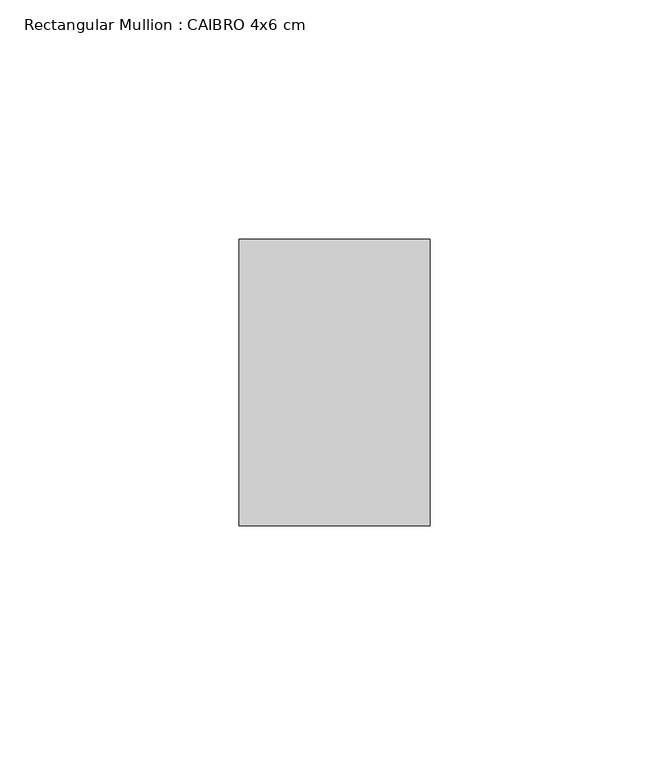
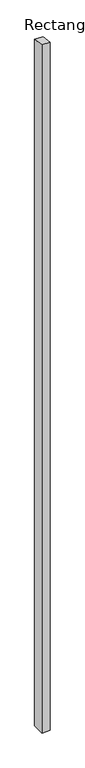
"""IFC4 building model written with IfcOpenShell, lengths in millimetres: member geometry, Rectangular Mullion : CAIBRO 4x6 cm."""

import ifcopenshell
import ifcopenshell.guid

model = None  # the IFC model being written
_history = None  # IfcOwnerHistory: only IFC2X3 demands one
_inside = {}  # id of a spatial element -> (the spatial element, [elements in it])
_under = {}  # id of a project, library or spatial element -> (it, [spatial elements below it])
_declared = {}  # id of a project -> (the project, [libraries it declares])
_typed = {}  # id of a type object -> (the type object, [elements of that type])
_made_of = {}  # id of a material, layer set ... -> (it, [elements and type objects made of it])


def new_model(schema):
    """Start an empty IFC model of exactly this schema.

    Asked for "IFC4X3", IfcOpenShell would pick the latest addendum, in which some entities
    have other attributes; the version numbers below select the first issue.
    IFC2X3 requires an IfcOwnerHistory on every rooted entity: one is made here for all.
    """
    global model, _history
    if schema == "IFC4X3":
        model = ifcopenshell.file(schema_version=(4, 3, 0, 0))
    else:
        model = ifcopenshell.file(schema=schema)
    _inside.clear()
    _under.clear()
    _declared.clear()
    _typed.clear()
    _made_of.clear()
    _history = None
    if model.schema == "IFC2X3":
        org = make("IfcOrganization", Name="unknown")
        user = make(
            "IfcPersonAndOrganization",
            ThePerson=make("IfcPerson", FamilyName="unknown"),
            TheOrganization=org,
        )
        app = make(
            "IfcApplication",
            ApplicationDeveloper=org,
            Version="unknown",
            ApplicationFullName="unknown",
            ApplicationIdentifier="unknown",
        )
        _history = make(
            "IfcOwnerHistory",
            OwningUser=user,
            OwningApplication=app,
            ChangeAction="ADDED",
            CreationDate=0,
        )
    return model


def make(cls, **values):
    """One entity of the class cls with the attributes given. An attribute that is None is left unset."""
    return model.create_entity(
        cls, **{name: value for name, value in values.items() if value is not None}
    )


def rooted(cls, **values):
    """An entity with a GlobalId (a new one), such as an element, a storey or a relation."""
    return make(cls, GlobalId=ifcopenshell.guid.new(), OwnerHistory=_history, **values)


def si_unit(unit_type, name, prefix=None):
    """IfcSIUnit, for example si_unit("LENGTHUNIT", "METRE", prefix="MILLI")."""
    return make("IfcSIUnit", UnitType=unit_type, Prefix=prefix, Name=name)


def assignment(units):
    """IfcUnitAssignment: the units of a project."""
    return None if units is None else make("IfcUnitAssignment", Units=units)


def point(xyz):
    """IfcCartesianPoint."""
    return None if xyz is None else make("IfcCartesianPoint", Coordinates=xyz)


def direction(xyz):
    """IfcDirection."""
    return None if xyz is None else make("IfcDirection", DirectionRatios=xyz)


def frame(location, z_axis=None, x_axis=None):
    """IfcAxis2Placement3D, a coordinate frame: its origin and axes. An axis left out is left unset."""
    return make(
        "IfcAxis2Placement3D",
        Location=point(location),
        Axis=direction(z_axis),
        RefDirection=direction(x_axis),
    )


def origin():
    """The frame at (0, 0, 0) with its axes left unset."""
    return frame((0.0, 0.0, 0.0))


def place(relative_to, where):
    """IfcLocalPlacement: puts the frame where relative to a parent placement (None: the world)."""
    return make(
        "IfcLocalPlacement", PlacementRelTo=relative_to, RelativePlacement=where
    )


def context(
    kind, dimensions, precision=None, world=None, true_north=None, identifier=None
):
    """IfcGeometricRepresentationContext, for example the 3D "Model" context."""
    return make(
        "IfcGeometricRepresentationContext",
        ContextIdentifier=identifier,
        ContextType=kind,
        CoordinateSpaceDimension=dimensions,
        Precision=precision,
        WorldCoordinateSystem=world,
        TrueNorth=true_north,
    )


def project(units=None, contexts=None):
    """IfcProject with its units and contexts."""
    return rooted(
        "IfcProject",
        Name="project",
        RepresentationContexts=contexts,
        UnitsInContext=assignment(units),
    )


def spatial(cls, under=None, at=None, **own):
    """A site, building, storey or space (cls), placed at a placement, below another one or the project."""
    s = rooted(cls, ObjectPlacement=at, **own)
    if under is not None:
        _under.setdefault(under.id(), (under, []))[1].append(s)
    return s


def polyline(points):
    """IfcPolyline through the points."""
    return make("IfcPolyline", Points=[point(p) for p in points])


def outline(outer, holes=None, kind="AREA"):
    """IfcArbitraryClosedProfileDef: a profile drawn as a closed curve; with holes, ...WithVoids."""
    if holes is None:
        return make("IfcArbitraryClosedProfileDef", ProfileType=kind, OuterCurve=outer)
    return make(
        "IfcArbitraryProfileDefWithVoids",
        ProfileType=kind,
        OuterCurve=outer,
        InnerCurves=holes,
    )


def extrude(swept, where, along, depth):
    """IfcExtrudedAreaSolid: the profile swept, set in the frame where, extruded along a direction by depth."""
    return make(
        "IfcExtrudedAreaSolid",
        SweptArea=swept,
        Position=where,
        ExtrudedDirection=direction(along),
        Depth=depth,
    )


def shape(context_of_items, identifier, shape_type, items):
    """IfcShapeRepresentation: the items that make up one representation, for example the "Body"."""
    return make(
        "IfcShapeRepresentation",
        ContextOfItems=context_of_items,
        RepresentationIdentifier=identifier,
        RepresentationType=shape_type,
        Items=items,
    )


def source(mapping_origin, context_of_items, identifier, shape_type, items):
    """IfcRepresentationMap: a shape defined once, which mapped items show again and again."""
    return make(
        "IfcRepresentationMap",
        MappingOrigin=mapping_origin,
        MappedRepresentation=shape(context_of_items, identifier, shape_type, items),
    )


def transform(
    local_origin,
    x_axis=None,
    y_axis=None,
    z_axis=None,
    scale=None,
    scale2=None,
    scale3=None,
    uniform=True,
):
    """IfcCartesianTransformationOperator3D, or its non-uniform kind. x_axis, y_axis, z_axis: its Axis1, 2, 3."""
    if uniform:
        return make(
            "IfcCartesianTransformationOperator3D",
            Axis1=direction(x_axis),
            Axis2=direction(y_axis),
            LocalOrigin=point(local_origin),
            Scale=scale,
            Axis3=direction(z_axis),
        )
    return make(
        "IfcCartesianTransformationOperator3DnonUniform",
        Axis1=direction(x_axis),
        Axis2=direction(y_axis),
        LocalOrigin=point(local_origin),
        Scale=scale,
        Axis3=direction(z_axis),
        Scale2=scale2,
        Scale3=scale3,
    )


def mapped(mapping_source, mapping_target):
    """IfcMappedItem: shows the shape of a source again, moved by a transform."""
    return make(
        "IfcMappedItem", MappingSource=mapping_source, MappingTarget=mapping_target
    )


def made_of(thing, what):
    """Note that an element or type object is made of a material, layer set ...; save() writes the relation."""
    if what is not None:
        _made_of.setdefault(what.id(), (what, []))[1].append(thing)
    return thing


def element(
    cls,
    number,
    at=None,
    inside=None,
    cuts=None,
    type_object=None,
    material=None,
    context=None,
    identifier="Body",
    shape_type=None,
    held_by="IfcProductDefinitionShape",
    body=None,
    shapes=None,
    **own,
):
    """One element of the class cls, such as IfcWall. Its Tag is "e" and its number.

    at: its placement. inside: the storey or other place that contains it. cuts: it is an
    opening in that element (IfcRelVoidsElement). A single representation is given by context,
    identifier, shape_type and body (its items); several are given by shapes. held_by: the class
    of the entity that holds the representations. save() writes the other relations.
    """
    e = rooted(cls, Tag="e%d" % number, ObjectPlacement=at, **own)
    if body is not None:
        shapes = [shape(context, identifier, shape_type, body)]
    if shapes is not None:
        e.Representation = make(held_by, Representations=shapes)
    if inside is not None:
        _inside.setdefault(inside.id(), (inside, []))[1].append(e)
    if cuts is not None:
        rooted(
            "IfcRelVoidsElement", RelatingBuildingElement=cuts, RelatedOpeningElement=e
        )
    if type_object is not None:
        _typed.setdefault(type_object.id(), (type_object, []))[1].append(e)
    return made_of(e, material)


def aggregate(whole, parts):
    """IfcRelAggregates: a whole, such as a stair, and the parts it consists of."""
    return rooted("IfcRelAggregates", RelatingObject=whole, RelatedObjects=parts)


def save(model, path):
    """Write the relations noted so far, then the file.

    IfcRelAggregates (storeys below a building ...), IfcRelContainedInSpatialStructure (elements
    in a storey), IfcRelDefinesByType, IfcRelAssociatesMaterial and IfcRelDeclares: one each for
    every whole, place, type object, material and project.
    """
    for whole, parts in _under.values():
        aggregate(whole, parts)
    for where, things in _inside.values():
        rooted(
            "IfcRelContainedInSpatialStructure",
            RelatedElements=things,
            RelatingStructure=where,
        )
    for kind, things in _typed.values():
        rooted("IfcRelDefinesByType", RelatedObjects=things, RelatingType=kind)
    for what, things in _made_of.values():
        rooted("IfcRelAssociatesMaterial", RelatedObjects=things, RelatingMaterial=what)
    for by, libraries in _declared.values():
        rooted("IfcRelDeclares", RelatingContext=by, RelatedDefinitions=libraries)
    model.write(path)


def rectangular_mullion_caibro_4x6_cm_cc310553(model_context):
    return source(origin(), model_context, "Body", "SweptSolid", [
        extrude(outline(polyline([(0.0, 0.0), (60.0, -9.0), (60.0, -3488.7644131), (0.0, -3488.7644131), (0.0, 0.0)])), frame((-20.0, 0.0, 0.0), z_axis=(1.0, 0.0, 0.0), x_axis=(0.0, 1.0, 0.0)), (0.0, 0.0, 1.0), 40.0),
    ])


if __name__ == "__main__":
    model = new_model("IFC4")
    model_context = context("Model", 3, world=origin())
    ifc_project = project(units=[si_unit("LENGTHUNIT", "METRE", prefix="MILLI")], contexts=[model_context])
    site = spatial("IfcSite", under=ifc_project)
    building = spatial("IfcBuilding", under=site)
    placement = place(None, origin())
    rectangular_mullion_caibro_4x6_cm_shape = rectangular_mullion_caibro_4x6_cm_cc310553(model_context)
    element("IfcMember", 1, ObjectType="Rectangular Mullion : CAIBRO 4x6 cm", at=placement, inside=building, context=model_context, shape_type="MappedRepresentation", body=[
        mapped(rectangular_mullion_caibro_4x6_cm_shape, transform((0.0, 0.0, 0.0), x_axis=(1.0, 0.0, 0.0), y_axis=(0.0, 1.0, 0.0), z_axis=(0.0, 0.0, 1.0))),
    ])
    save(model, "model.ifc")
